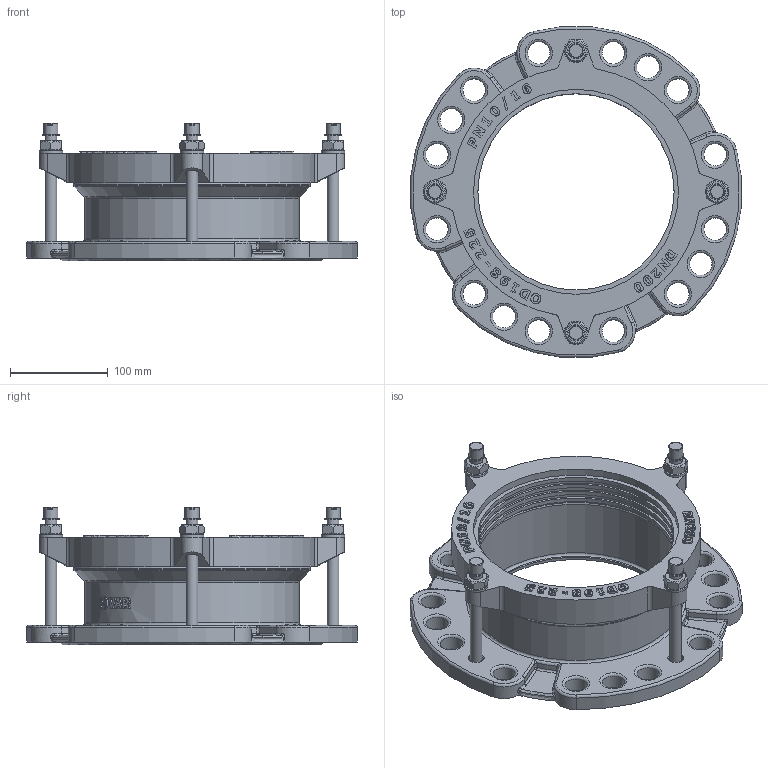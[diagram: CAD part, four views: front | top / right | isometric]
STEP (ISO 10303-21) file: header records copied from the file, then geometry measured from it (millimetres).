
FILE_DESCRIPTION(('STEP AP203'), '1');
FILE_NAME('Ôëàíöåâûé àäàïòåð', '', ('UNSPECIFIED'), ('UNSPECIFIED'), 'C3D Converter', 'C3D Toolkit', '');
FILE_SCHEMA(('CONFIG_CONTROL_DESIGN'));
Length unit declared in the file: millimetre
Assembly tree (19 placements, depth 2):
  (unnamed)
    (unnamed)
    (unnamed)  x4
    (unnamed)  x4
    (unnamed)  x4
    (unnamed)  x4
    (unnamed)
    (unnamed)
Bounding box: 338.71 x 338.71 x 141.2 mm (x, y, z)
Volume: 1767334.2 mm3; surface area: 453737 mm2
Topology: 19 solids, 19 shells, 1064 faces, 2716 edges, 1686 vertices
Faces by surface type: extrusion 360, plane 327, cylinder 210, torus 79, cone 32, bspline 32, sphere 24
Full cylindrical faces by diameter (mm): 12 x12, 13 x4, 13.478 x1, 14 x8, 14.4 x4, 16.8 x4, 23 x16, 24 x4, 201 x5, 205.5 x3, 210 x2, 215 x1, 220 x2, 242.5 x1, 245 x2
Entity records: 41189 total; most frequent: CARTESIAN_POINT 15034, ORIENTED_EDGE 4642, DIRECTION 3495, EDGE_CURVE 2321, VERTEX_POINT 1523, VECTOR 1329, B_SPLINE_CURVE_WITH_KNOTS 1176, EDGE_LOOP 1149
